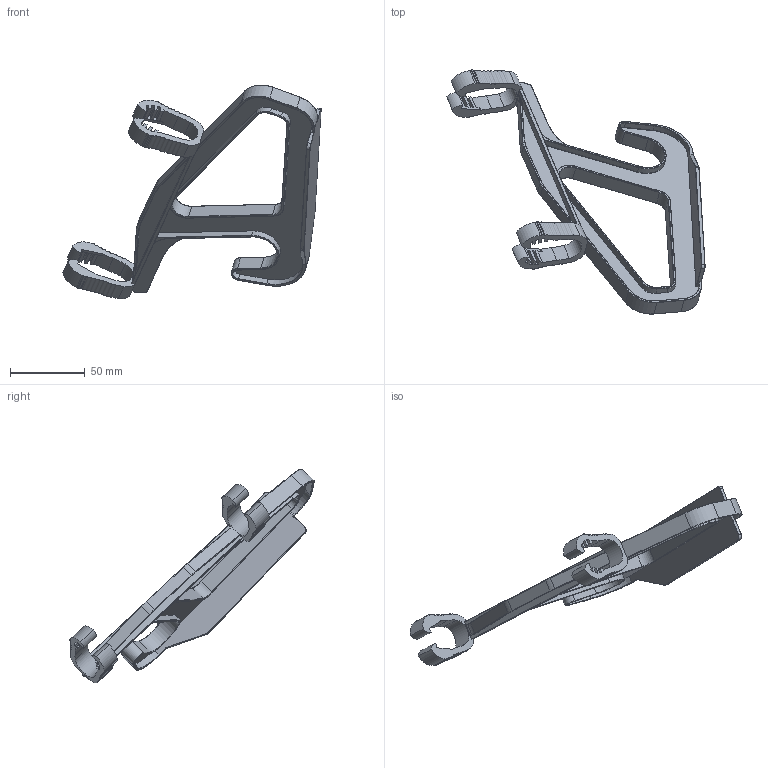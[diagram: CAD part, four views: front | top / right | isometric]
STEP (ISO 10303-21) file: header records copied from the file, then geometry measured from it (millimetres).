
FILE_DESCRIPTION(('STEP AP214'),'1');
FILE_NAME('C:/Users/jabrahamowicz/Desktop/Default.stp','2014-05-09T10:53:28',(' '),(' '),'Spatial InterOp 3D',' ',' ');
FILE_SCHEMA(('automotive_design'));
Length unit declared in the file: millimetre
Products named in the file (1): 1
Bounding box: 172.93 x 163.67 x 143.1 mm (x, y, z)
Volume: 53160.5 mm3; surface area: 51327.5 mm2
Topology: 1 solids, 1 shells, 395 faces, 1033 edges, 636 vertices
Faces by surface type: bspline 395
Entity records: 14931 total; most frequent: CARTESIAN_POINT 6382, ORIENTED_EDGE 2062, DIRECTION 1459, EDGE_CURVE 1031, VERTEX_POINT 636, LINE 545, VECTOR 545, AXIS2_PLACEMENT_3D 457
